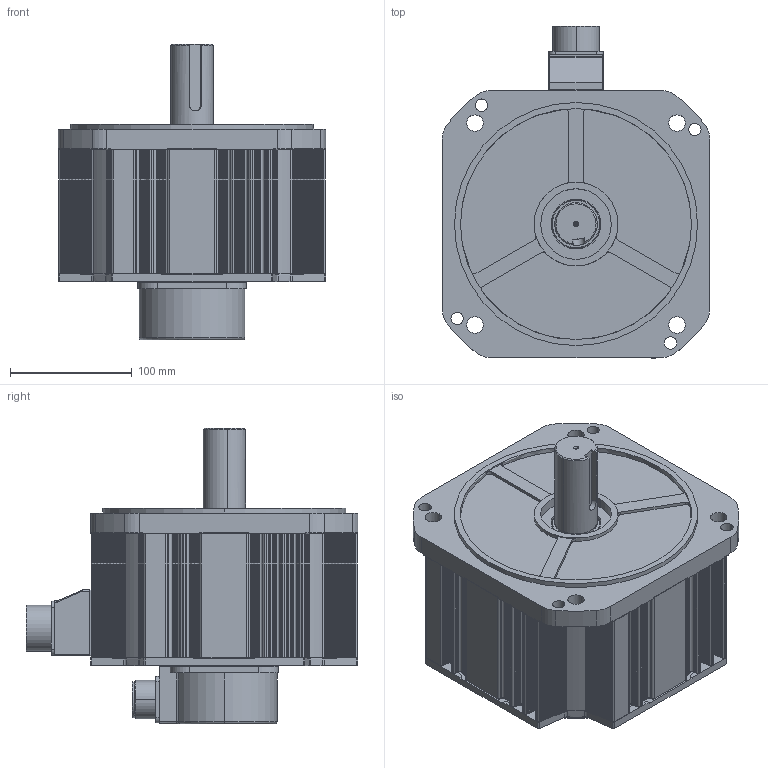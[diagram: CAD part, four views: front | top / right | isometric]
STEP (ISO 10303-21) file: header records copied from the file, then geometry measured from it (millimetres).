
FILE_DESCRIPTION (( 'STEP AP203' ), '1' );
FILE_NAME ('KANF-55G¡à9N2.STEP', '2026-09-12T00:54:44', ( '' ), ( '' ), 'SwSTEP 2.0', 'SolidWorks 2023', '' );
FILE_SCHEMA (( 'CONFIG_CONTROL_DESIGN' ));
Length unit declared in the file: millimetre
Products named in the file (11): KANF-55G□9N2; MS3102A 24-11P_표준; 1005053102 ENCODER COVER; 10050908 CONNECTOR BOX_MS22 or MS24; □220 BRACKET_BR; 10050532 GASKET_미돌출형; MS3102A 20-29P; 10050907 RUBBER SEAL_MS22 or MS24; Ø35-KEY10X50; □220-105.0mm(5.5kW,NB); □220 FLANGE
Assembly tree (10 placements, depth 2):
  KANF-55G□9N2
    □220 FLANGE
    □220 BRACKET_BR
    10050532 GASKET_미돌출형
    1005053102 ENCODER COVER
    MS3102A 20-29P
    10050907 RUBBER SEAL_MS22 or MS24
    10050908 CONNECTOR BOX_MS22 or MS24
    MS3102A 24-11P_표준
    Ø35-KEY10X50
    □220-105.0mm(5.5kW,NB)
Bounding box: 220 x 273.12 x 243.5 mm (x, y, z)
Volume: 1649523.3 mm3; surface area: 558679.2 mm2
Topology: 10 solids, 10 shells, 2020 faces, 5772 edges, 3812 vertices
Faces by surface type: plane 1184, cylinder 732, cone 54, bspline 35, torus 13, sphere 2
Entity records: 68895 total; most frequent: CARTESIAN_POINT 13760, ORIENTED_EDGE 11492, DIRECTION 11204, EDGE_CURVE 5746, VECTOR 3982, LINE 3982, VERTEX_POINT 3812, AXIS2_PLACEMENT_3D 3611
